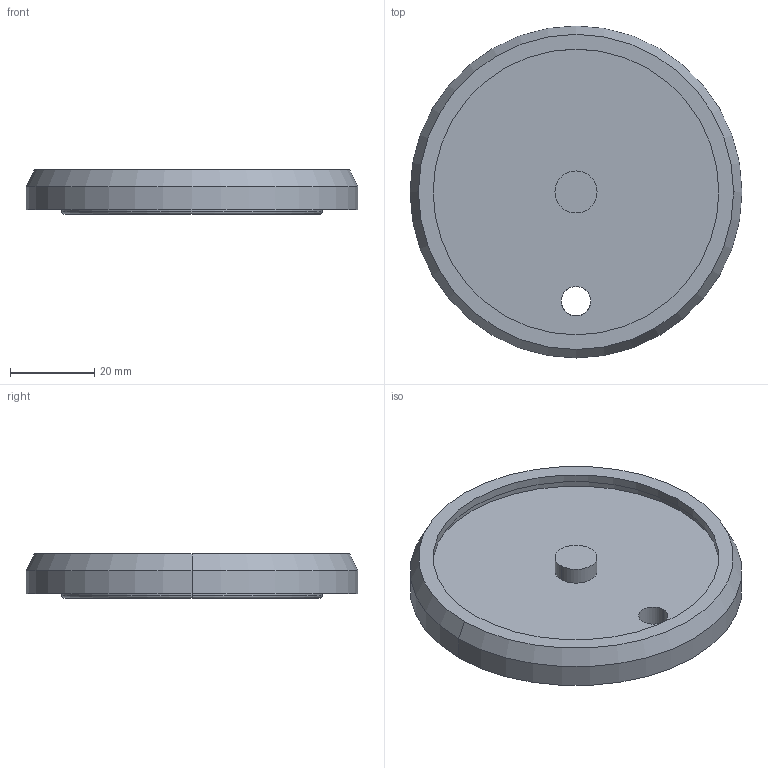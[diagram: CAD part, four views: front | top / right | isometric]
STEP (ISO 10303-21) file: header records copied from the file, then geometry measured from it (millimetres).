
FILE_DESCRIPTION (( 'STEP AP214' ), '1' );
FILE_NAME ('FLFJ 69.step', '2017-04-05T08:05:02', ( '' ), ( '' ), 'SwSTEP 2.0', 'SolidWorks 2015', '' );
FILE_SCHEMA (( 'AUTOMOTIVE_DESIGN' ));
Length unit declared in the file: millimetre
Products named in the file (1): FLFJ 69
Bounding box: 79 x 79 x 10.5 mm (x, y, z)
Volume: 31263 mm3; surface area: 13834.9 mm2
Topology: 1 solids, 1 shells, 47 faces, 96 edges, 59 vertices
Faces by surface type: cylinder 22, torus 12, plane 11, cone 2
Entity records: 1300 total; most frequent: DIRECTION 264, CARTESIAN_POINT 203, ORIENTED_EDGE 192, AXIS2_PLACEMENT_3D 120, EDGE_CURVE 96, CIRCLE 72, VERTEX_POINT 59, EDGE_LOOP 57
